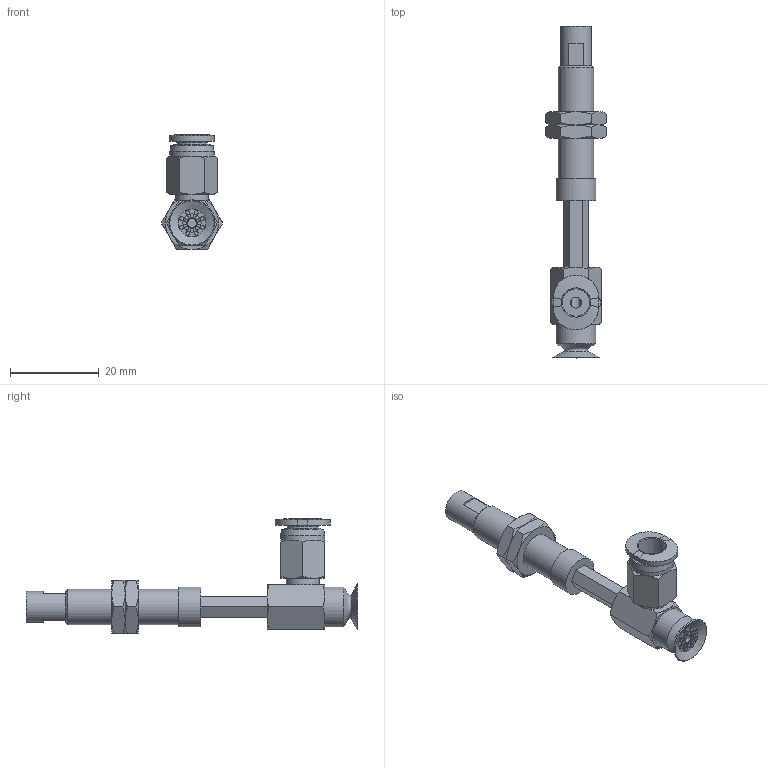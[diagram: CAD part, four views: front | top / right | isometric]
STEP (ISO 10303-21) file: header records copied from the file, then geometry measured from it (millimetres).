
FILE_DESCRIPTION(('STEP AP203'),'1');
FILE_NAME('-O.stp','2025-03-13T02:53:00',(' '),(' '),'Spatial InterOp 3D',' ',' ');
FILE_SCHEMA(('CONFIG_CONTROL_DESIGN'));
Length unit declared in the file: millimetre
Products named in the file (7): BNABPAYH-10A-15-※-O; NAPATH-10A-15--M; NAPATH-10A-15--F; Nut-10A-S; CONNECTOR-10A-15-PA; PC-C_06-M5; BPAG-10A-※
Assembly tree (7 placements, depth 2):
  BNABPAYH-10A-15-※-O
    NAPATH-10A-15--M
    NAPATH-10A-15--F
    Nut-10A-S  x2
    CONNECTOR-10A-15-PA
    PC-C_06-M5
    BPAG-10A-※
Bounding box: 13.86 x 75 x 25.98 mm (x, y, z)
Volume: 4740.7 mm3; surface area: 5969.8 mm2
Topology: 7 solids, 7 shells, 222 faces, 449 edges, 275 vertices
Faces by surface type: plane 96, cone 67, cylinder 40, torus 12, bspline 4, revolution 3
Full cylindrical faces by diameter (mm): 0.9 x16, 2 x2, 4 x4, 4.134 x2, 5 x2, 6 x2, 7 x2, 7.188 x2, 7.4 x1, 8 x1, 8.2 x1, 9 x2, 10 x1
Entity records: 5584 total; most frequent: CARTESIAN_POINT 1478, DIRECTION 785, ORIENTED_EDGE 650, AXIS2_PLACEMENT_3D 346, EDGE_CURVE 325, EDGE_LOOP 308, FACE_OUTER_BOUND 248, VERTEX_POINT 237
